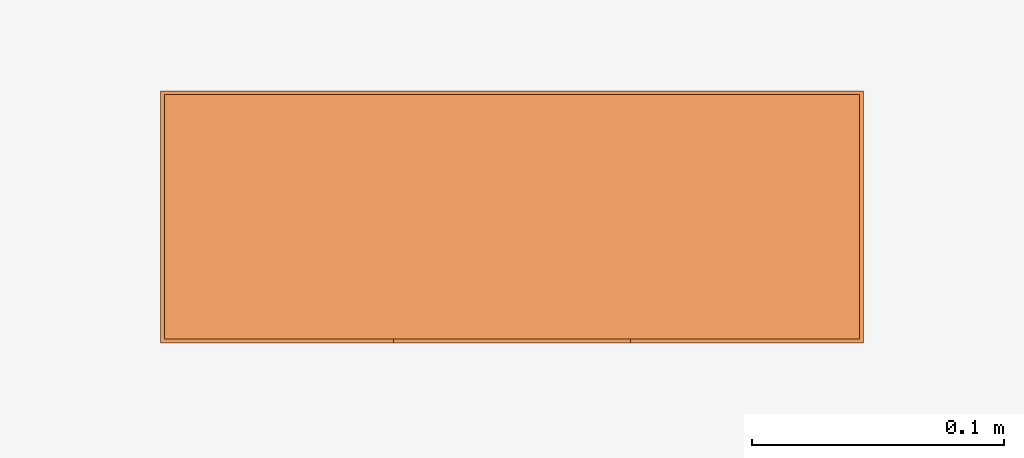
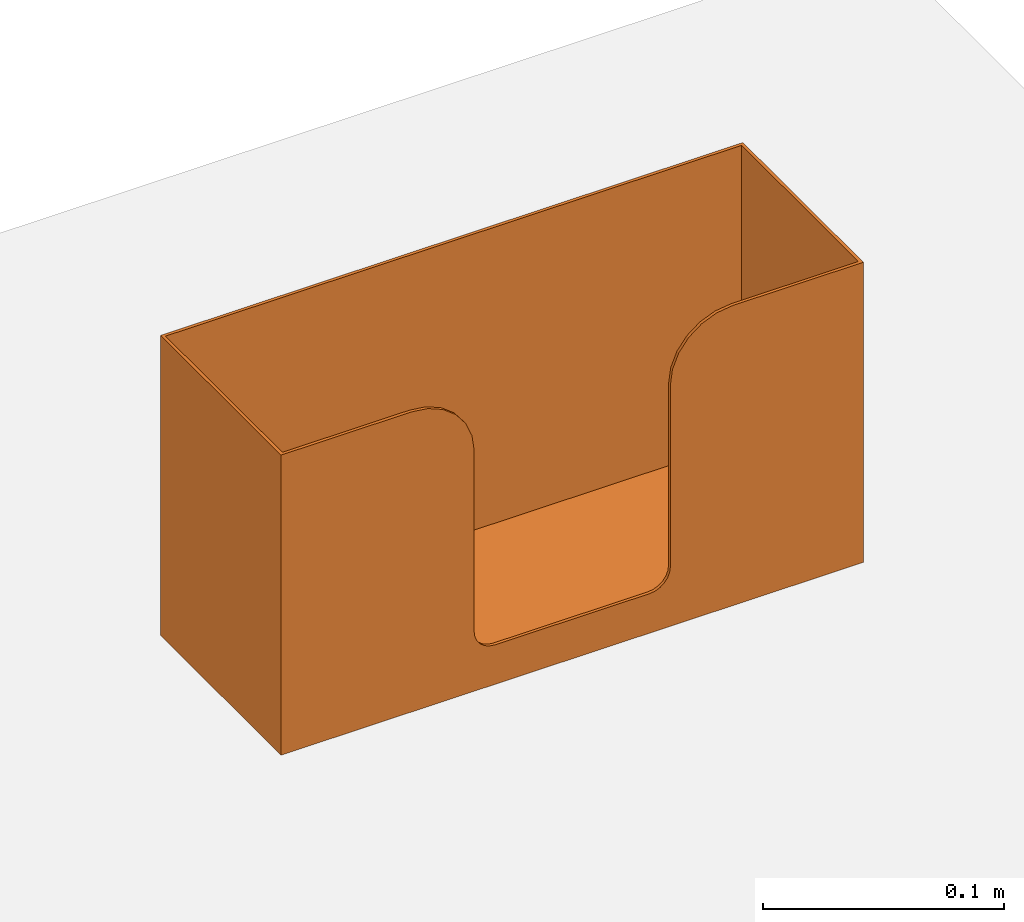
# One storey, part 2 of 2: 1 proxy.
"""IFC2X3 building model written with IfcOpenShell, lengths in millimetres."""

from ifc_helpers import new_model, entity, si_unit, converted_unit, derived_unit, direction, frame, origin, place, context, subcontext, project, spatial, faceted_brep, source, transform, mapped, element, save


model = new_model("IFC2X3")

# Units and contexts
model_context = context("Model", 3, precision=1e-05, world=origin(), true_north=direction((2.0, 6.12303176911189e-17, 1.0)))
context_of_model = context(None, 3, precision=1e-05, world=origin(), true_north=direction((2.0, 6.12303176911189e-17, 1.0)))
body_context = subcontext(model_context, "Body", "Model", "MODEL_VIEW")
ifc_project = project(units=[si_unit("LENGTHUNIT", "METRE", prefix="MILLI"), si_unit("AREAUNIT", "SQUARE_METRE"), si_unit("VOLUMEUNIT", "CUBIC_METRE"), converted_unit("PLANEANGLEUNIT", "DEGREE", entity("IfcRatioMeasure", 0.0174532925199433), si_unit("PLANEANGLEUNIT", "RADIAN"), dimensions=[0, 0, 0, 0, 0, 0, 0]), si_unit("MASSUNIT", "GRAM", prefix="KILO"), si_unit("TIMEUNIT", "SECOND"), si_unit("THERMODYNAMICTEMPERATUREUNIT", "KELVIN"), derived_unit("THERMALTRANSMITTANCEUNIT", [(si_unit("MASSUNIT", "GRAM", prefix="KILO"), 1), (si_unit("THERMODYNAMICTEMPERATUREUNIT", "KELVIN"), -1), (si_unit("TIMEUNIT", "SECOND"), -3)]), derived_unit("VOLUMETRICFLOWRATEUNIT", [(si_unit("LENGTHUNIT", "METRE"), 3), (si_unit("TIMEUNIT", "SECOND"), -1)]), si_unit("POWERUNIT", "WATT")], contexts=[model_context, context_of_model])

# Site, building, storey
site_placement = place(None, origin())
site = spatial("IfcSite", under=ifc_project, at=site_placement, Name="Default", CompositionType="ELEMENT")
building_placement = place(site_placement, origin())
building = spatial("IfcBuilding", under=site, at=building_placement, CompositionType="ELEMENT")
storey_placement = place(building_placement, origin())
storey = spatial("IfcBuildingStorey", under=building, at=storey_placement, Name="Level 1", CompositionType="ELEMENT", Elevation=0.0)

# Proxy
shared_shape = source(origin(), body_context, "Body", "Brep", [
    faceted_brep([(138.0, -98.4999999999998, 152.0), (107.0, -98.4999999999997, 152.0), (77.0, -98.4999999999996, 152.0), (77.0, -100.0, 152.0), (107.0, -100.0, 152.0), (139.5, -100.0, 152.0), (139.5, 0.0, 152.0), (-139.5, 0.0, 152.0), (-139.5, -100.0, 152.0), (-107.0, -100.0, 152.0), (-77.0, -100.0, 152.0), (-77.0, -98.499999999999, 152.0), (-107.0, -98.4999999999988, 152.0), (-138.0, -98.4999999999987, 152.0), (-138.0, -1.49999999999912, 152.0), (138.0, -1.50000000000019, 152.0), (-139.5, 0.0, 0.0), (-138.0, -1.49999999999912, 0.0), (-138.0, -98.4999999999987, 0.0), (138.0, -1.50000000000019, 0.0), (-139.5, -100.0, 0.0), (139.5, 0.0, 0.0), (138.0, -98.4999999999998, 0.0), (139.5, -100.0, 0.0), (69.2354286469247, -100.0, 150.977774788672), (62.0, -100.0, 147.980762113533), (55.7867965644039, -100.0, 143.213203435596), (51.0192378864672, -100.0, 137.0), (48.0222252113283, -100.0, 129.764571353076), (47.0, -100.0, 122.0), (47.0, -100.0, 30.0), (46.6592582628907, -100.0, 27.4118095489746), (45.6602540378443, -100.0, 25.0), (44.0710678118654, -100.0, 22.9289321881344), (42.0, -100.0, 21.3397459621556), (39.5881904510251, -100.0, 20.3407417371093), (37.0, -100.0, 20.0), (0.0, -100.0, 20.0), (-37.0, -100.0, 20.0), (-39.5881904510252, -100.0, 20.3407417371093), (-42.0, -100.0, 21.3397459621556), (-44.0710678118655, -100.0, 22.9289321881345), (-45.6602540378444, -100.0, 25.0), (-46.6592582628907, -100.0, 27.4118095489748), (-47.0, -100.0, 30.0), (-47.0, -100.0, 122.0), (-48.0222252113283, -100.0, 129.764571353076), (-51.0192378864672, -100.0, 137.0), (-55.7867965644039, -100.0, 143.213203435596), (-62.0, -100.0, 147.980762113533), (-69.2354286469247, -100.0, 150.977774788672), (-69.2354286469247, -98.499999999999, 150.977774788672), (-62.0, -98.499999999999, 147.980762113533), (-55.7867965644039, -98.499999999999, 143.213203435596), (-51.0192378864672, -98.4999999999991, 137.0), (-48.0222252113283, -98.4999999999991, 129.764571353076), (-47.0, -98.4999999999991, 122.0), (-47.0, -98.4999999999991, 30.0), (-46.6592582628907, -98.4999999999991, 27.4118095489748), (-45.6602540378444, -98.4999999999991, 25.0), (-44.0710678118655, -98.4999999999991, 22.9289321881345), (-42.0, -98.4999999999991, 21.3397459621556), (-39.5881904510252, -98.4999999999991, 20.3407417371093), (-37.0, -98.4999999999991, 20.0), (0.0, -98.4999999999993, 20.0), (37.0, -98.4999999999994, 20.0), (39.5881904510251, -98.4999999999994, 20.3407417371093), (42.0, -98.4999999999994, 21.3397459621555), (44.0710678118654, -98.4999999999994, 22.9289321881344), (45.6602540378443, -98.4999999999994, 25.0), (46.6592582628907, -98.4999999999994, 27.4118095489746), (47.0, -98.4999999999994, 30.0), (47.0, -98.4999999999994, 122.0), (48.0222252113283, -98.4999999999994, 129.764571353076), (51.0192378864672, -98.4999999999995, 137.0), (55.7867965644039, -98.4999999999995, 143.213203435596), (62.0, -98.4999999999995, 147.980762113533), (69.2354286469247, -98.4999999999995, 150.977774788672)], [[[0, 1, 2, 3, 4, 5, 6, 7, 8, 9, 10, 11, 12, 13, 14, 15]], [[16, 17, 18]], [[17, 16, 19]], [[18, 20, 16]], [[21, 19, 16]], [[19, 21, 22]], [[23, 22, 21]], [[22, 23, 20]], [[20, 18, 22]], [[7, 6, 21, 16]], [[8, 7, 16, 20]], [[10, 9, 8, 20, 23, 5, 4, 3, 24, 25, 26, 27, 28, 29, 30, 31, 32, 33, 34, 35, 36, 37, 38, 39, 40, 41, 42, 43, 44, 45, 46, 47, 48, 49, 50]], [[6, 5, 23, 21]], [[0, 15, 19, 22]], [[2, 1, 0, 22, 18, 13, 12, 11, 51, 52, 53, 54, 55, 56, 57, 58, 59, 60, 61, 62, 63, 64, 65, 66, 67, 68, 69, 70, 71, 72, 73, 74, 75, 76, 77]], [[14, 13, 18, 17]], [[15, 14, 17, 19]], [[34, 67, 66, 35]], [[35, 66, 65, 36]], [[67, 34, 33, 68]], [[30, 71, 70, 31]], [[31, 70, 69, 32]], [[33, 32, 69, 68]], [[71, 30, 29, 72]], [[72, 29, 28, 73]], [[73, 28, 27, 74]], [[74, 27, 26, 75]], [[76, 25, 24, 77]], [[77, 24, 3, 2]], [[76, 75, 26, 25]], [[11, 10, 50, 51]], [[51, 50, 49, 52]], [[52, 49, 48, 53]], [[54, 47, 46, 55]], [[55, 46, 45, 56]], [[54, 53, 48, 47]], [[56, 45, 44, 57]], [[42, 59, 58, 43]], [[43, 58, 57, 44]], [[59, 42, 41, 60]], [[38, 63, 62, 39]], [[39, 62, 61, 40]], [[41, 40, 61, 60]], [[64, 63, 38, 37, 36, 65]]]),
    faceted_brep([(138.0, -98.4999999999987, 2.0), (138.0, -1.5000000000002, 2.0), (-138.0, -1.5000000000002, 2.0), (-138.0, -98.4999999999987, 2.0), (138.0, -98.4999999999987, 0.0), (-138.0, -98.4999999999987, 0.0), (-138.0, -1.5000000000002, 0.0), (138.0, -1.5000000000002, 0.0), (138.0, -1.5000000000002, 2.0), (138.0, -98.4999999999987, 2.0), (138.0, -98.4999999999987, 0.0), (138.0, -1.5000000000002, 0.0), (-138.0, -1.5000000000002, 2.0), (138.0, -1.5000000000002, 2.0), (138.0, -1.5000000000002, 0.0), (-138.0, -1.5000000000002, 0.0), (-138.0, -98.4999999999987, 2.0), (-138.0, -1.5000000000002, 2.0), (-138.0, -1.5000000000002, 0.0), (-138.0, -98.4999999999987, 0.0), (138.0, -98.4999999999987, 2.0), (-138.0, -98.4999999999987, 2.0), (-138.0, -98.4999999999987, 0.0), (138.0, -98.4999999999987, 0.0)], [[[0, 1, 2, 3]], [[4, 5, 6, 7]], [[8, 9, 10, 11]], [[12, 13, 14, 15]], [[16, 17, 18, 19]], [[20, 21, 22, 23]]]),
])
proxy_placement = place(storey_placement, frame((1717.98038687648, -427.051795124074, 0.0)))
element("IfcBuildingElementProxy", 1, at=proxy_placement, inside=storey, Name="BC919:BC919 Dolphin Paper Towel Dispenser", ObjectType="BC919 Dolphin Paper Towel Dispenser", CompositionType="ELEMENT", context=body_context, shape_type="MappedRepresentation", body=[
    mapped(shared_shape, transform((0.0, 0.0, 0.0), scale=1.0)),
])

save(model, "model.ifc")
